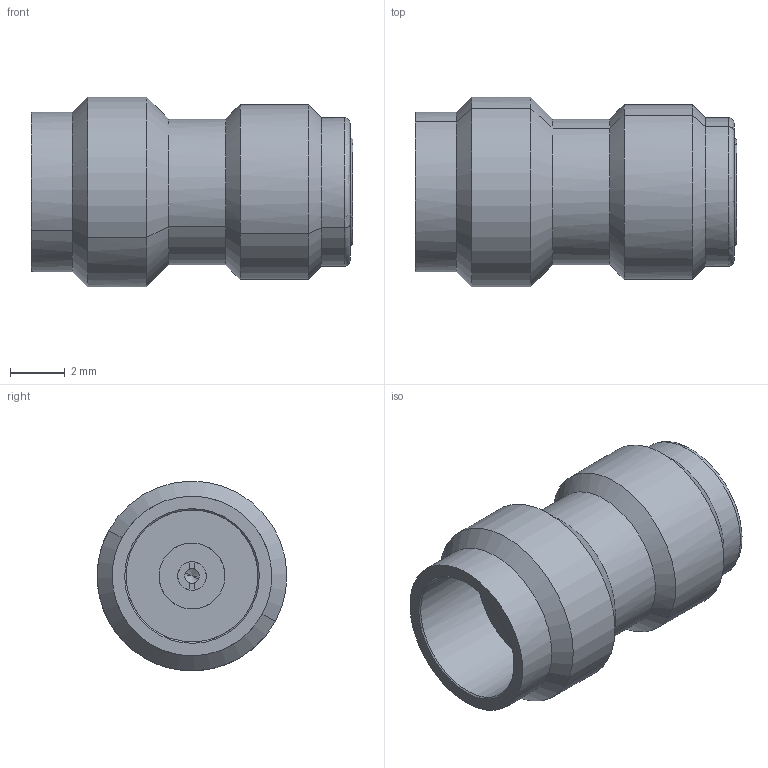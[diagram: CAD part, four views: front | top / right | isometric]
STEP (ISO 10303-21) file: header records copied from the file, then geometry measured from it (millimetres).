
FILE_DESCRIPTION(('CATIA V5 STEP Exchange'),'2;1');
FILE_NAME('F:\Work SZ\CMP 图纸\Precision Coaxial Connector\2.4mm\97-02-9A5-006\97-02-9A5-006(REV.A).stp','2013-08-08T09:56:57+00:00',('none'),('none'),'CATIA Version 5 Release 17 (IN-10)','CATIA V5 STEP AP203','none');
FILE_SCHEMA(('CONFIG_CONTROL_DESIGN'));
Length unit declared in the file: millimetre
Products named in the file (1): 97-02-9A5-006
Bounding box: 11.7 x 6.9 x 6.9 mm (x, y, z)
Volume: 265.3 mm3; surface area: 392.9 mm2
Topology: 1 solids, 1 shells, 64 faces, 150 edges, 90 vertices
Faces by surface type: cylinder 24, plane 22, cone 16, torus 2
Entity records: 2073 total; most frequent: CARTESIAN_POINT 704, ORIENTED_EDGE 292, DIRECTION 221, EDGE_CURVE 146, AXIS2_PLACEMENT_3D 96, VERTEX_POINT 90, VECTOR 72, LINE 72
